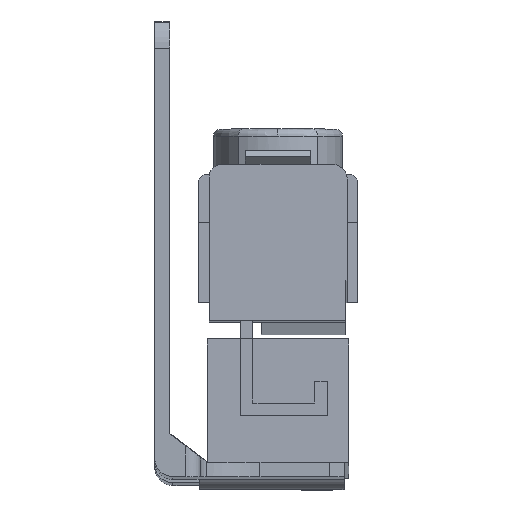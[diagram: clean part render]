
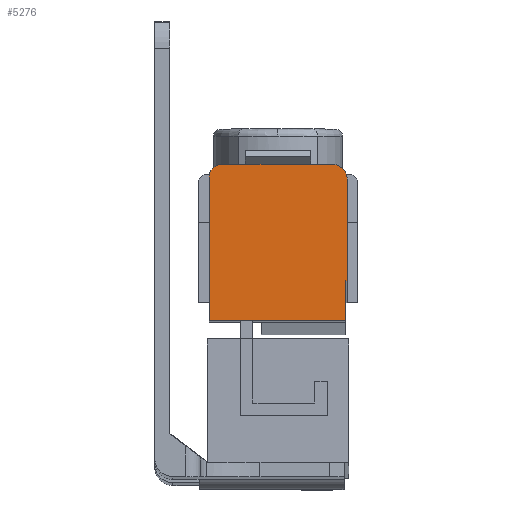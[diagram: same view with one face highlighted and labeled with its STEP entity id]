
A CAD part, front view. The second image highlights one B-rep face of the part: STEP entity #5276.
In plain terms, the highlighted planar face has unit normal (0, -1, 0.005).
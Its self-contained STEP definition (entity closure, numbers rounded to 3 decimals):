
#178 = FACE_OUTER_BOUND ( 'NONE', #1387, .T. ) ;
#430 = AXIS2_PLACEMENT_3D ( 'NONE', #4126, #4127, #4128 ) ;
#655 = DIRECTION ( 'NONE',  ( -1., 0., 0. ) ) ;
#656 = CARTESIAN_POINT ( 'NONE',  ( 9.25, -25.174, -4.659 ) ) ;
#680 = CARTESIAN_POINT ( 'NONE',  ( 24.45, -25.185, -6.709 ) ) ;
#685 = DIRECTION ( 'NONE',  ( 1., 0., 0. ) ) ;
#686 = DIRECTION ( 'NONE',  ( 0., -1., 0.005 ) ) ;
#691 = DIRECTION ( 'NONE',  ( 0., -0.005, -1. ) ) ;
#692 = CARTESIAN_POINT ( 'NONE',  ( 7.5, -25.183, -6.409 ) ) ;
#696 = CARTESIAN_POINT ( 'NONE',  ( 26.5, -25.185, -6.709 ) ) ;
#697 = DIRECTION ( 'NONE',  ( 0., -1., 0.005 ) ) ;
#698 = DIRECTION ( 'NONE',  ( 0., 0.005, 1. ) ) ;
#699 = DIRECTION ( 'NONE',  ( 0., -0.005, -1. ) ) ;
#700 = CARTESIAN_POINT ( 'NONE',  ( 9.25, -25.183, -6.409 ) ) ;
#705 = DIRECTION ( 'NONE',  ( 0., 0.005, 1. ) ) ;
#706 = CARTESIAN_POINT ( 'NONE',  ( 7.5, -25.258, -20.659 ) ) ;
#714 = DIRECTION ( 'NONE',  ( 0., 0.005, 1. ) ) ;
#716 = CARTESIAN_POINT ( 'NONE',  ( 26.25, -25.287, -26.159 ) ) ;
#718 = CARTESIAN_POINT ( 'NONE',  ( 26.25, -25.287, -26.159 ) ) ;
#719 = DIRECTION ( 'NONE',  ( 1., 0., 0. ) ) ;
#874 = LINE ( 'NONE', #656, #875 ) ;
#875 = VECTOR ( 'NONE', #655, 1000. ) ;
#884 = LINE ( 'NONE', #696, #885 ) ;
#885 = VECTOR ( 'NONE', #698, 1000. ) ;
#889 = CIRCLE ( 'NONE', #3772, 2.05 ) ;
#892 = CIRCLE ( 'NONE', #3773, 1.75 ) ;
#898 = LINE ( 'NONE', #692, #899 ) ;
#899 = VECTOR ( 'NONE', #699, 1000. ) ;
#900 = LINE ( 'NONE', #706, #901 ) ;
#901 = VECTOR ( 'NONE', #685, 1000. ) ;
#906 = LINE ( 'NONE', #718, #907 ) ;
#907 = VECTOR ( 'NONE', #719, 1000. ) ;
#908 = LINE ( 'NONE', #716, #909 ) ;
#909 = VECTOR ( 'NONE', #714, 1000. ) ;
#1387 = EDGE_LOOP ( 'NONE', ( #5470, #5471, #5472, #5473, #5474, #5475, #5476, #5477 ) ) ;
#2282 = VERTEX_POINT ( 'NONE', #2634 ) ;
#2310 = VERTEX_POINT ( 'NONE', #2662 ) ;
#2352 = VERTEX_POINT ( 'NONE', #2704 ) ;
#2357 = VERTEX_POINT ( 'NONE', #2709 ) ;
#2402 = VERTEX_POINT ( 'NONE', #2754 ) ;
#2404 = VERTEX_POINT ( 'NONE', #2756 ) ;
#2406 = VERTEX_POINT ( 'NONE', #2758 ) ;
#2412 = VERTEX_POINT ( 'NONE', #2764 ) ;
#2634 = CARTESIAN_POINT ( 'NONE',  ( 9.25, -25.174, -4.659 ) ) ;
#2662 = CARTESIAN_POINT ( 'NONE',  ( 7.5, -25.183, -6.409 ) ) ;
#2704 = CARTESIAN_POINT ( 'NONE',  ( 7.5, -25.287, -26.159 ) ) ;
#2709 = CARTESIAN_POINT ( 'NONE',  ( 24.45, -25.174, -4.659 ) ) ;
#2754 = CARTESIAN_POINT ( 'NONE',  ( 26.5, -25.258, -20.659 ) ) ;
#2756 = CARTESIAN_POINT ( 'NONE',  ( 26.5, -25.185, -6.709 ) ) ;
#2758 = CARTESIAN_POINT ( 'NONE',  ( 26.25, -25.258, -20.659 ) ) ;
#2764 = CARTESIAN_POINT ( 'NONE',  ( 26.25, -25.287, -26.159 ) ) ;
#3566 = EDGE_CURVE ( 'NONE', #2357, #2282, #874, .T. ) ;
#3571 = EDGE_CURVE ( 'NONE', #2402, #2404, #884, .T. ) ;
#3573 = EDGE_CURVE ( 'NONE', #2404, #2357, #889, .T. ) ;
#3575 = EDGE_CURVE ( 'NONE', #2282, #2310, #892, .T. ) ;
#3579 = EDGE_CURVE ( 'NONE', #2310, #2352, #898, .T. ) ;
#3580 = EDGE_CURVE ( 'NONE', #2406, #2402, #900, .T. ) ;
#3583 = EDGE_CURVE ( 'NONE', #2352, #2412, #906, .T. ) ;
#3584 = EDGE_CURVE ( 'NONE', #2412, #2406, #908, .T. ) ;
#3772 = AXIS2_PLACEMENT_3D ( 'NONE', #680, #686, #705 ) ;
#3773 = AXIS2_PLACEMENT_3D ( 'NONE', #700, #697, #691 ) ;
#4125 = PLANE ( 'NONE',  #430 ) ;
#4126 = CARTESIAN_POINT ( 'NONE',  ( 9.25, -25.183, -6.409 ) ) ;
#4127 = DIRECTION ( 'NONE',  ( 0., -1., 0.005 ) ) ;
#4128 = DIRECTION ( 'NONE',  ( 0., -0.005, -1. ) ) ;
#5276 = ADVANCED_FACE ( 'NONE', ( #178 ), #4125, .T. ) ;
#5470 = ORIENTED_EDGE ( 'NONE', *, *, #3571, .T. ) ;
#5471 = ORIENTED_EDGE ( 'NONE', *, *, #3573, .T. ) ;
#5472 = ORIENTED_EDGE ( 'NONE', *, *, #3566, .T. ) ;
#5473 = ORIENTED_EDGE ( 'NONE', *, *, #3575, .T. ) ;
#5474 = ORIENTED_EDGE ( 'NONE', *, *, #3579, .T. ) ;
#5475 = ORIENTED_EDGE ( 'NONE', *, *, #3583, .T. ) ;
#5476 = ORIENTED_EDGE ( 'NONE', *, *, #3584, .T. ) ;
#5477 = ORIENTED_EDGE ( 'NONE', *, *, #3580, .T. ) ;
